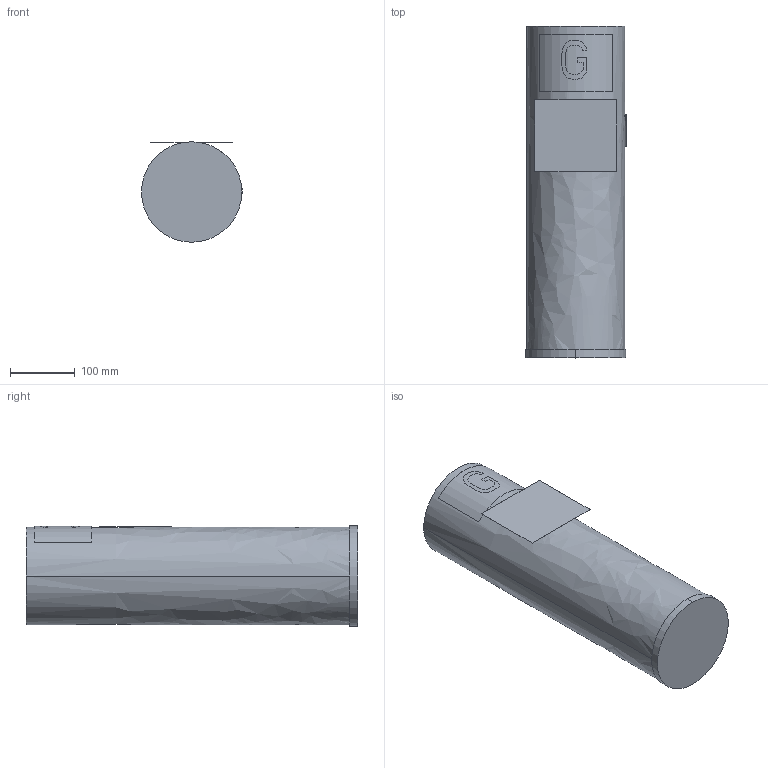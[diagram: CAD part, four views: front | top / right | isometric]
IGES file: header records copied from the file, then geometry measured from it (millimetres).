
Start section:  PTC IGES file: 562903-en-c.igs
Global section: file name: 562903-en-c.igs; native system: Creo Parametric by PTC Inc.; preprocessor: 2019030; author: qusrh3; organization: Unknown; date: 20191231.212402; units: inch
Bounding box: 156.54 x 514.35 x 155.6 mm (x, y, z)
Surface area: 347663.8 mm2 (no closed solid volume)
Topology: 0 solids, 0 shells, 31 faces, 173 edges, 173 vertices
Faces by surface type: revolution 17, bspline 14
